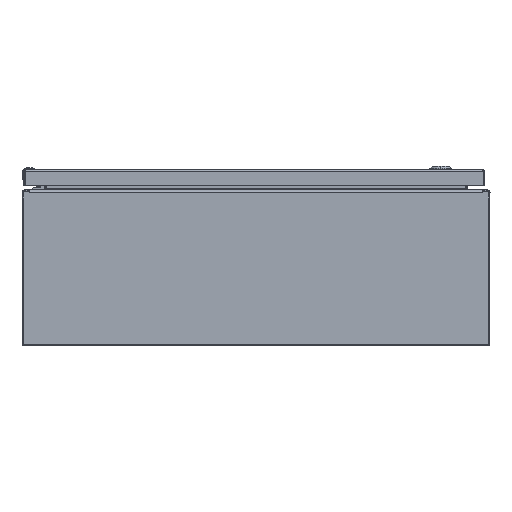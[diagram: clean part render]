
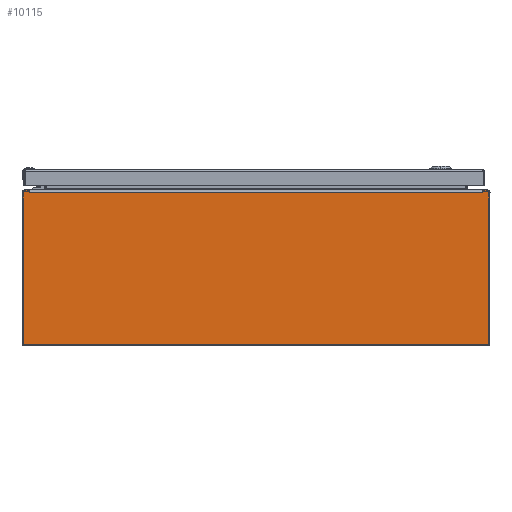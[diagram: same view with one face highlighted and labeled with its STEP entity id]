
A CAD part, front view. The second image highlights one B-rep face of the part: STEP entity #10115.
In plain terms, the highlighted planar face has unit normal (0, -1, 0).
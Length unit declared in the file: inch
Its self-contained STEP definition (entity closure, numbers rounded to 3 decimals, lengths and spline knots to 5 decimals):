
#8906=CARTESIAN_POINT('',(-11.915,0.,3.934));
#8907=DIRECTION('',(0.,-1.,0.));
#8908=DIRECTION('',(0.,0.,1.));
#8909=AXIS2_PLACEMENT_3D('',#8906,#8907,#8908);
#8914=DIRECTION('',(1.,0.,0.));
#8915=VECTOR('',#8914,0.2939);
#8916=CARTESIAN_POINT('',(-11.915,0.,3.994));
#8917=LINE('',#8916,#8915);
#8921=DIRECTION('',(1.,0.,0.));
#8922=VECTOR('',#8921,0.2939);
#8923=CARTESIAN_POINT('',(11.6211,0.,3.994));
#8924=LINE('',#8923,#8922);
#8928=CARTESIAN_POINT('',(11.915,0.,3.934));
#8929=DIRECTION('',(0.,-1.,0.));
#8930=DIRECTION('',(1.,0.,0.));
#8931=AXIS2_PLACEMENT_3D('',#8928,#8929,#8930);
#8936=DIRECTION('',(0.,0.,-1.));
#8937=VECTOR('',#8936,7.765);
#8938=CARTESIAN_POINT('',(11.975,0.,3.934));
#8939=LINE('',#8938,#8937);
#8943=CARTESIAN_POINT('',(11.85,0.,-3.831));
#8944=DIRECTION('',(0.,-1.,0.));
#8945=DIRECTION('',(0.,0.,-1.));
#8946=AXIS2_PLACEMENT_3D('',#8943,#8944,#8945);
#8951=DIRECTION('',(-1.,0.,0.));
#8952=VECTOR('',#8951,23.7);
#8953=CARTESIAN_POINT('',(11.85,0.,-3.956));
#8954=LINE('',#8953,#8952);
#8958=CARTESIAN_POINT('',(-11.85,0.,-3.831));
#8959=DIRECTION('',(0.,-1.,0.));
#8960=DIRECTION('',(-1.,0.,0.));
#8961=AXIS2_PLACEMENT_3D('',#8958,#8959,#8960);
#8966=DIRECTION('',(0.,0.,-1.));
#8967=VECTOR('',#8966,7.765);
#8968=CARTESIAN_POINT('',(-11.975,0.,3.934));
#8969=LINE('',#8968,#8967);
#9036=DIRECTION('',(0.,0.,-1.));
#9037=VECTOR('',#9036,0.125);
#9038=CARTESIAN_POINT('',(11.6211,0.,3.994));
#9039=LINE('',#9038,#9037);
#9624=DIRECTION('',(1.,0.,0.));
#9625=VECTOR('',#9624,23.2422);
#9626=CARTESIAN_POINT('',(-11.6211,0.,3.869));
#9627=LINE('',#9626,#9625);
#9661=DIRECTION('',(0.,0.,1.));
#9662=VECTOR('',#9661,0.125);
#9663=CARTESIAN_POINT('',(-11.6211,0.,3.869));
#9664=LINE('',#9663,#9662);
#9920=CARTESIAN_POINT('',(-11.6211,0.,3.869));
#9921=CARTESIAN_POINT('',(11.6211,0.,3.869));
#9922=VERTEX_POINT('',#9920);
#9923=VERTEX_POINT('',#9921);
#10004=CARTESIAN_POINT('',(-11.6211,0.,3.994));
#10006=VERTEX_POINT('',#10004);
#10008=CARTESIAN_POINT('',(11.6211,0.,3.994));
#10010=VERTEX_POINT('',#10008);
#10052=CARTESIAN_POINT('',(-11.915,0.,3.994));
#10053=CARTESIAN_POINT('',(-11.975,0.,3.934));
#10054=VERTEX_POINT('',#10052);
#10055=VERTEX_POINT('',#10053);
#10060=CARTESIAN_POINT('',(11.975,0.,3.934));
#10061=CARTESIAN_POINT('',(11.915,0.,3.994));
#10062=VERTEX_POINT('',#10060);
#10063=VERTEX_POINT('',#10061);
#10068=CARTESIAN_POINT('',(-11.975,0.,-3.831));
#10069=CARTESIAN_POINT('',(-11.85,0.,-3.956));
#10070=VERTEX_POINT('',#10068);
#10071=VERTEX_POINT('',#10069);
#10076=CARTESIAN_POINT('',(11.85,0.,-3.956));
#10077=CARTESIAN_POINT('',(11.975,0.,-3.831));
#10078=VERTEX_POINT('',#10076);
#10079=VERTEX_POINT('',#10077);
#10084=CARTESIAN_POINT('',(0.,0.,0.));
#10085=DIRECTION('',(0.,-1.,0.));
#10086=DIRECTION('',(-1.,0.,0.));
#10087=AXIS2_PLACEMENT_3D('',#10084,#10085,#10086);
#10088=PLANE('',#10087);
#10090=ORIENTED_EDGE('',*,*,#10089,.F.);
#10092=ORIENTED_EDGE('',*,*,#10091,.T.);
#10094=ORIENTED_EDGE('',*,*,#10093,.F.);
#10096=ORIENTED_EDGE('',*,*,#10095,.T.);
#10098=ORIENTED_EDGE('',*,*,#10097,.F.);
#10100=ORIENTED_EDGE('',*,*,#10099,.T.);
#10102=ORIENTED_EDGE('',*,*,#10101,.F.);
#10104=ORIENTED_EDGE('',*,*,#10103,.T.);
#10106=ORIENTED_EDGE('',*,*,#10105,.F.);
#10108=ORIENTED_EDGE('',*,*,#10107,.T.);
#10110=ORIENTED_EDGE('',*,*,#10109,.F.);
#10112=ORIENTED_EDGE('',*,*,#10111,.F.);
#10113=EDGE_LOOP('',(#10090,#10092,#10094,#10096,#10098,#10100,#10102,#10104,
#10106,#10108,#10110,#10112));
#10114=FACE_OUTER_BOUND('',#10113,.F.);
#8910=CIRCLE('',#8909,0.06);
#8932=CIRCLE('',#8931,0.06);
#8947=CIRCLE('',#8946,0.125);
#8962=CIRCLE('',#8961,0.125);
#10089=EDGE_CURVE('',#10054,#10055,#8910,.T.);
#10091=EDGE_CURVE('',#10054,#10006,#8917,.T.);
#10093=EDGE_CURVE('',#9922,#10006,#9664,.T.);
#10095=EDGE_CURVE('',#9922,#9923,#9627,.T.);
#10097=EDGE_CURVE('',#10010,#9923,#9039,.T.);
#10099=EDGE_CURVE('',#10010,#10063,#8924,.T.);
#10101=EDGE_CURVE('',#10062,#10063,#8932,.T.);
#10103=EDGE_CURVE('',#10062,#10079,#8939,.T.);
#10105=EDGE_CURVE('',#10078,#10079,#8947,.T.);
#10107=EDGE_CURVE('',#10078,#10071,#8954,.T.);
#10109=EDGE_CURVE('',#10070,#10071,#8962,.T.);
#10111=EDGE_CURVE('',#10055,#10070,#8969,.T.);
#10115=ADVANCED_FACE('',(#10114),#10088,.T.);
